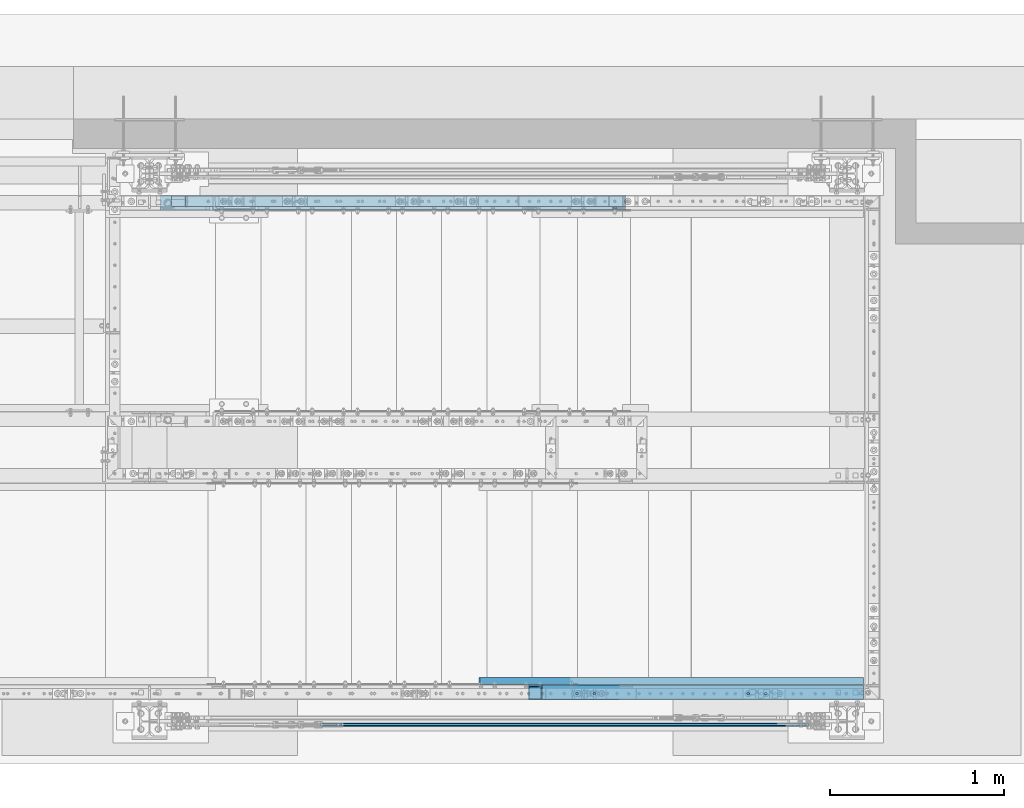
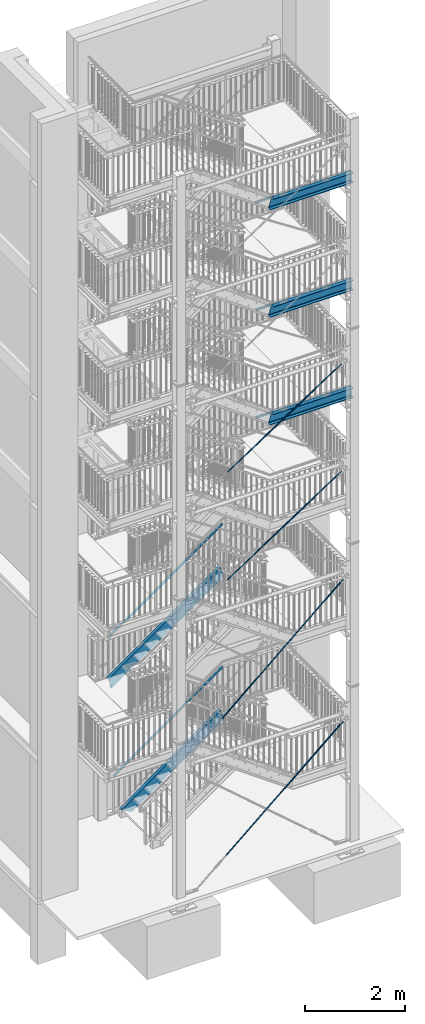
# One storey, part 126 of 825: 8 members, 6 beams, 63 openings.
"""IFC2X3 building model written with IfcOpenShell, lengths in millimetres."""

from ifc_helpers import new_model, entity, si_unit, converted_unit, frame, frame_2d, origin, origin_with_axes, origin_2d, origin_2d_with_axis, place, context, project, spatial, rectangle, circle, l_section, u_section, extrude, clip, halfspace, material, element, save


model = new_model("IFC2X3")

# Units and contexts
model_context = context("Model", 3, precision=1e-09, world=origin_with_axes())
ifc_project = project(units=[si_unit("LENGTHUNIT", "METRE", prefix="MILLI"), si_unit("AREAUNIT", "SQUARE_METRE"), si_unit("VOLUMEUNIT", "CUBIC_METRE"), converted_unit("PLANEANGLEUNIT", "DEGREE", entity("IfcPlaneAngleMeasure", 0.01745329), si_unit("PLANEANGLEUNIT", "RADIAN"), dimensions=[0, 0, 0, 0, 0, 0, 0])], contexts=[model_context])

# Site, building, storey
site_placement = place(None, origin_with_axes())
site = spatial("IfcSite", under=ifc_project, at=site_placement, Name="Cnopf'sche Kinderklinik", CompositionType="ELEMENT")
building_placement = place(site_placement, origin_with_axes())
building = spatial("IfcBuilding", under=site, at=building_placement, Name="Struktur 1", CompositionType="ELEMENT")
storey_placement = place(building_placement, origin_with_axes())
storey = spatial("IfcBuildingStorey", under=building, at=storey_placement, Name="Default Storey", CompositionType="ELEMENT", Elevation=0.0)

# Beam
ifc_material = material(Name="S235JR")
beam_1_placement = place(None, frame((8961.713402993, 4590.936971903, 11254.3000003), z_axis=(1.0, 0.0, 0.0), x_axis=(0.0, 0.0, -1.0)))
element("IfcBeam", 1, at=beam_1_placement, inside=storey, material=ifc_material, Name="BottomLanding#3", ObjectType="BottomLanding#3", context=model_context, shape_type="SweptSolid", body=[
    extrude(l_section(Depth=40.0, Width=40.0, Thickness=4.0, FilletRadius=6.0, EdgeRadius=3.0, at=frame_2d((8.8, 8.8))), origin(), (0.0, 0.0, -1.0), 2204.257526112),
])

# Beam, openings
beam_2_placement = place(None, frame((9219.017173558, 4554.436971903, 11145.5000003), z_axis=(-1.0, 0.0, 0.0), x_axis=(0.0, -1.0, 0.0)))
beam_2 = element("IfcBeam", 2, at=beam_2_placement, inside=storey, material=ifc_material, Name="BottomLanding#2", ObjectType="BottomLanding#2", context=model_context, shape_type="Clipping", body=[
    clip(clip(extrude(u_section(Depth=240.0, FlangeWidth=85.0, WebThickness=9.5, FlangeThickness=13.0, FilletRadius=13.0, EdgeRadius=6.5, FlangeSlope=4.574, at=frame_2d((20.2, 0.0))), origin(), (0.0, 0.0, 1.0), 2366.776191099), halfspace(frame((4554.436971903, -11145.5000003, 257.304770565), z_axis=(0.0, 0.0, 1.0), x_axis=(1.0, 0.0, 0.0)), True)), halfspace(frame((4554.436971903, -12161.289703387, 6075.770068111), z_axis=(0.0, -0.307506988, -0.951545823), x_axis=(-1.0, 0.0, 0.0)), True)),
])
opening_1_placement = place(beam_2_placement, frame((27.7, 120.5, 1897.224056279), z_axis=(0.0, 1.0, 0.0), x_axis=(-1.0, 0.0, 0.0)))
element("IfcOpeningElement", 3, at=opening_1_placement, cuts=beam_2, ObjectType="Opening", context=model_context, shape_type="SweptSolid", body=[
    extrude(circle(Radius=7.001, at=frame_2d((0.0, 7.001), x_axis=(1.0, 0.0))), origin(), (0.0, 0.0, -1.0), 14.0),
])
opening_2_placement = place(beam_2_placement, frame((27.7, 120.5, 1797.224056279), z_axis=(0.0, 1.0, 0.0), x_axis=(-1.0, 0.0, 0.0)))
element("IfcOpeningElement", 4, at=opening_2_placement, cuts=beam_2, ObjectType="Opening", context=model_context, shape_type="SweptSolid", body=[
    extrude(circle(Radius=7.001, at=frame_2d((0.0, 7.001), x_axis=(1.0, 0.0))), origin(), (0.0, 0.0, -1.0), 14.0),
])
opening_3_placement = place(beam_2_placement, frame((27.7, 120.5, 912.223913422), z_axis=(0.0, 1.0, 0.0), x_axis=(-1.0, 0.0, 0.0)))
element("IfcOpeningElement", 5, at=opening_3_placement, cuts=beam_2, ObjectType="Opening", context=model_context, shape_type="SweptSolid", body=[
    extrude(circle(Radius=7.001, at=frame_2d((0.0, 7.001), x_axis=(1.0, 0.0))), origin(), (0.0, 0.0, -1.0), 14.0),
])
opening_4_placement = place(beam_2_placement, frame((27.7, 120.5, 812.223913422), z_axis=(0.0, 1.0, 0.0), x_axis=(-1.0, 0.0, 0.0)))
element("IfcOpeningElement", 6, at=opening_4_placement, cuts=beam_2, ObjectType="Opening", context=model_context, shape_type="SweptSolid", body=[
    extrude(circle(Radius=7.001, at=frame_2d((0.0, 7.001), x_axis=(1.0, 0.0))), origin(), (0.0, 0.0, -1.0), 14.0),
])
opening_5_placement = place(beam_2_placement, frame((29.701, -120.5, 402.303770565), z_axis=(0.0, -1.0, 0.0), x_axis=(1.0, 0.0, 0.0)))
element("IfcOpeningElement", 7, at=opening_5_placement, cuts=beam_2, ObjectType="Opening", context=model_context, shape_type="SweptSolid", body=[
    extrude(circle(Radius=7.001, at=frame_2d((-7.001, 0.0), x_axis=(1.0, 0.0))), origin(), (0.0, 0.0, -1.0), 14.0),
])
opening_6_placement = place(beam_2_placement, frame((29.701, -120.5, 302.303770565), z_axis=(0.0, -1.0, 0.0), x_axis=(1.0, 0.0, 0.0)))
element("IfcOpeningElement", 8, at=opening_6_placement, cuts=beam_2, ObjectType="Opening", context=model_context, shape_type="SweptSolid", body=[
    extrude(circle(Radius=7.001, at=frame_2d((-7.001, 0.0), x_axis=(1.0, 0.0))), origin(), (0.0, 0.0, -1.0), 14.0),
])

beam_3_placement = place(None, frame((9219.017173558, 4554.436971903, 13776.5000001), z_axis=(-1.0, 0.0, 0.0), x_axis=(0.0, -1.0, 0.0)))
beam_3 = element("IfcBeam", 9, at=beam_3_placement, inside=storey, material=ifc_material, Name="BottomLanding#2", ObjectType="BottomLanding#2", context=model_context, shape_type="Clipping", body=[
    clip(clip(extrude(u_section(Depth=240.0, FlangeWidth=85.0, WebThickness=9.5, FlangeThickness=13.0, FilletRadius=13.0, EdgeRadius=6.5, FlangeSlope=4.574, at=frame_2d((20.2, 0.0))), origin(), (0.0, 0.0, 1.0), 2367.00516843), halfspace(frame((4554.436971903, -13776.5000001, 257.304770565), z_axis=(0.0, 0.0, 1.0), x_axis=(1.0, 0.0, 0.0)), True)), halfspace(frame((4554.436971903, -14541.73622123, 6856.907864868), z_axis=(0.0, -0.308193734, -0.951323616), x_axis=(-1.0, 0.0, 0.0)), True)),
])
opening_7_placement = place(beam_3_placement, frame((27.7, 120.5, 1897.224056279), z_axis=(0.0, 1.0, 0.0), x_axis=(-1.0, 0.0, 0.0)))
element("IfcOpeningElement", 10, at=opening_7_placement, cuts=beam_3, ObjectType="Opening", context=model_context, shape_type="SweptSolid", body=[
    extrude(circle(Radius=7.001, at=frame_2d((0.0, 7.001), x_axis=(1.0, 0.0))), origin(), (0.0, 0.0, -1.0), 14.0),
])
opening_8_placement = place(beam_3_placement, frame((27.7, 120.5, 1797.224056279), z_axis=(0.0, 1.0, 0.0), x_axis=(-1.0, 0.0, 0.0)))
element("IfcOpeningElement", 11, at=opening_8_placement, cuts=beam_3, ObjectType="Opening", context=model_context, shape_type="SweptSolid", body=[
    extrude(circle(Radius=7.001, at=frame_2d((0.0, 7.001), x_axis=(1.0, 0.0))), origin(), (0.0, 0.0, -1.0), 14.0),
])
opening_9_placement = place(beam_3_placement, frame((27.7, 120.5, 912.223913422), z_axis=(0.0, 1.0, 0.0), x_axis=(-1.0, 0.0, 0.0)))
element("IfcOpeningElement", 12, at=opening_9_placement, cuts=beam_3, ObjectType="Opening", context=model_context, shape_type="SweptSolid", body=[
    extrude(circle(Radius=7.001, at=frame_2d((0.0, 7.001), x_axis=(1.0, 0.0))), origin(), (0.0, 0.0, -1.0), 14.0),
])
opening_10_placement = place(beam_3_placement, frame((27.7, 120.5, 812.223913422), z_axis=(0.0, 1.0, 0.0), x_axis=(-1.0, 0.0, 0.0)))
element("IfcOpeningElement", 13, at=opening_10_placement, cuts=beam_3, ObjectType="Opening", context=model_context, shape_type="SweptSolid", body=[
    extrude(circle(Radius=7.001, at=frame_2d((0.0, 7.001), x_axis=(1.0, 0.0))), origin(), (0.0, 0.0, -1.0), 14.0),
])
opening_11_placement = place(beam_3_placement, frame((29.701, -120.5, 402.303770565), z_axis=(0.0, -1.0, 0.0), x_axis=(1.0, 0.0, 0.0)))
element("IfcOpeningElement", 14, at=opening_11_placement, cuts=beam_3, ObjectType="Opening", context=model_context, shape_type="SweptSolid", body=[
    extrude(circle(Radius=7.001, at=frame_2d((-7.001, 0.0), x_axis=(1.0, 0.0))), origin(), (0.0, 0.0, -1.0), 14.0),
])
opening_12_placement = place(beam_3_placement, frame((29.701, -120.5, 302.303770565), z_axis=(0.0, -1.0, 0.0), x_axis=(1.0, 0.0, 0.0)))
element("IfcOpeningElement", 15, at=opening_12_placement, cuts=beam_3, ObjectType="Opening", context=model_context, shape_type="SweptSolid", body=[
    extrude(circle(Radius=7.001, at=frame_2d((-7.001, 0.0), x_axis=(1.0, 0.0))), origin(), (0.0, 0.0, -1.0), 14.0),
])

# Beam
beam_4_placement = place(None, frame((8961.713402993, 4590.936971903, 13885.3000001), z_axis=(1.0, 0.0, 0.0), x_axis=(0.0, 0.0, -1.0)))
element("IfcBeam", 16, at=beam_4_placement, inside=storey, material=ifc_material, Name="BottomLanding#3", ObjectType="BottomLanding#3", context=model_context, shape_type="SweptSolid", body=[
    extrude(l_section(Depth=40.0, Width=40.0, Thickness=4.0, FilletRadius=6.0, EdgeRadius=3.0, at=frame_2d((8.8, 8.8))), origin(), (0.0, 0.0, -1.0), 2203.77580859),
])

# Beam, openings
beam_5_placement = place(None, frame((9219.017173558, 4554.436971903, 16404.0000003), z_axis=(-1.0, 0.0, 0.0), x_axis=(0.0, -1.0, 0.0)))
beam_5 = element("IfcBeam", 17, at=beam_5_placement, inside=storey, material=ifc_material, Name="BottomLanding#2", ObjectType="BottomLanding#2", context=model_context, shape_type="Clipping", body=[
    clip(clip(extrude(u_section(Depth=240.0, FlangeWidth=85.0, WebThickness=9.5, FlangeThickness=13.0, FilletRadius=13.0, EdgeRadius=6.5, FlangeSlope=4.574, at=frame_2d((20.2, 0.0))), origin(), (0.0, 0.0, 1.0), 2366.575023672), halfspace(frame((4554.436971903, -16404.0000003, 257.304770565), z_axis=(0.0, 0.0, 1.0), x_axis=(1.0, 0.0, 0.0)), True)), halfspace(frame((4554.436971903, -16925.049146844, 7603.195357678), z_axis=(0.0, -0.306904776, -0.951740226), x_axis=(-1.0, 0.0, 0.0)), True)),
])
opening_13_placement = place(beam_5_placement, frame((27.7, 120.5, 1897.224056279), z_axis=(0.0, 1.0, 0.0), x_axis=(-1.0, 0.0, 0.0)))
element("IfcOpeningElement", 18, at=opening_13_placement, cuts=beam_5, ObjectType="Opening", context=model_context, shape_type="SweptSolid", body=[
    extrude(circle(Radius=7.001, at=frame_2d((0.0, 7.001), x_axis=(1.0, 0.0))), origin(), (0.0, 0.0, -1.0), 14.0),
])
opening_14_placement = place(beam_5_placement, frame((27.7, 120.5, 1797.224056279), z_axis=(0.0, 1.0, 0.0), x_axis=(-1.0, 0.0, 0.0)))
element("IfcOpeningElement", 19, at=opening_14_placement, cuts=beam_5, ObjectType="Opening", context=model_context, shape_type="SweptSolid", body=[
    extrude(circle(Radius=7.001, at=frame_2d((0.0, 7.001), x_axis=(1.0, 0.0))), origin(), (0.0, 0.0, -1.0), 14.0),
])
opening_15_placement = place(beam_5_placement, frame((27.7, 120.5, 912.223913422), z_axis=(0.0, 1.0, 0.0), x_axis=(-1.0, 0.0, 0.0)))
element("IfcOpeningElement", 20, at=opening_15_placement, cuts=beam_5, ObjectType="Opening", context=model_context, shape_type="SweptSolid", body=[
    extrude(circle(Radius=7.001, at=frame_2d((0.0, 7.001), x_axis=(1.0, 0.0))), origin(), (0.0, 0.0, -1.0), 14.0),
])
opening_16_placement = place(beam_5_placement, frame((27.7, 120.5, 812.223913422), z_axis=(0.0, 1.0, 0.0), x_axis=(-1.0, 0.0, 0.0)))
element("IfcOpeningElement", 21, at=opening_16_placement, cuts=beam_5, ObjectType="Opening", context=model_context, shape_type="SweptSolid", body=[
    extrude(circle(Radius=7.001, at=frame_2d((0.0, 7.001), x_axis=(1.0, 0.0))), origin(), (0.0, 0.0, -1.0), 14.0),
])
opening_17_placement = place(beam_5_placement, frame((29.701, -120.5, 402.303770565), z_axis=(0.0, -1.0, 0.0), x_axis=(1.0, 0.0, 0.0)))
element("IfcOpeningElement", 22, at=opening_17_placement, cuts=beam_5, ObjectType="Opening", context=model_context, shape_type="SweptSolid", body=[
    extrude(circle(Radius=7.001, at=frame_2d((-7.001, 0.0), x_axis=(1.0, 0.0))), origin(), (0.0, 0.0, -1.0), 14.0),
])
opening_18_placement = place(beam_5_placement, frame((29.701, -120.5, 302.303770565), z_axis=(0.0, -1.0, 0.0), x_axis=(1.0, 0.0, 0.0)))
element("IfcOpeningElement", 23, at=opening_18_placement, cuts=beam_5, ObjectType="Opening", context=model_context, shape_type="SweptSolid", body=[
    extrude(circle(Radius=7.001, at=frame_2d((-7.001, 0.0), x_axis=(1.0, 0.0))), origin(), (0.0, 0.0, -1.0), 14.0),
])

# Beam
beam_6_placement = place(None, frame((8961.713402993, 4590.936971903, 16512.8000003), z_axis=(1.0, 0.0, 0.0), x_axis=(0.0, 0.0, -1.0)))
element("IfcBeam", 24, at=beam_6_placement, inside=storey, material=ifc_material, Name="BottomLanding#3", ObjectType="BottomLanding#3", context=model_context, shape_type="SweptSolid", body=[
    extrude(l_section(Depth=40.0, Width=40.0, Thickness=4.0, FilletRadius=6.0, EdgeRadius=3.0, at=frame_2d((8.8, 8.8))), origin(), (0.0, 0.0, -1.0), 2210.0),
])

# Members
member_1_placement = place(None, frame((8638.256627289, 4346.736971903, 3315.333465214), z_axis=(0.757867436, 0.0, 0.652408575), x_axis=(-0.652408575, 0.0, 0.757867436)))
element("IfcMember", 25, at=member_1_placement, inside=storey, material=ifc_material, Name="-", ObjectType="-", context=model_context, shape_type="SweptSolid", body=[
    extrude(circle(Radius=11.0, at=origin_2d()), origin(), (0.0, 0.0, -1.0), 3558.714022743),
])
member_2_placement = place(None, frame((8601.498957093, 4346.736971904, 9442.924079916), z_axis=(0.836006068, 0.0, 0.548720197), x_axis=(-0.548720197, 0.0, 0.836006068)))
element("IfcMember", 26, at=member_2_placement, inside=storey, material=ifc_material, Name="-", ObjectType="-", context=model_context, shape_type="SweptSolid", body=[
    extrude(circle(Radius=11.0, at=origin_2d()), origin(), (0.0, 0.0, -1.0), 3152.493860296),
])
member_3_placement = place(None, frame((8640.181685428, 4346.736971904, 6788.804321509), z_axis=(0.755906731, 0.0, 0.654679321), x_axis=(-0.654679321, 0.0, 0.755906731)))
element("IfcMember", 27, at=member_3_placement, inside=storey, material=ifc_material, Name="-", ObjectType="-", context=model_context, shape_type="SweptSolid", body=[
    extrude(circle(Radius=11.0, at=origin_2d()), origin(), (0.0, 0.0, -1.0), 3695.891465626),
])
member_4_placement = place(None, frame((8601.347465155, 4346.736971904, 12070.155526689), z_axis=(0.836484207, 0.0, 0.547991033), x_axis=(-0.547991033, 0.0, 0.836484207)))
element("IfcMember", 28, at=member_4_placement, inside=storey, material=ifc_material, Name="-", ObjectType="-", context=model_context, shape_type="SweptSolid", body=[
    extrude(circle(Radius=11.0, at=origin_2d()), origin(), (0.0, 0.0, -1.0), 3149.752466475),
])

# Member, openings
member_5_placement = place(None, frame((4776.641171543, 7329.036971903, 3599.654006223), z_axis=(0.818063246, 0.0, 0.575128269), x_axis=(0.0, 1.0, 0.0)))
member_5 = element("IfcMember", 29, at=member_5_placement, inside=storey, material=ifc_material, Name="Stringer#1", ObjectType="Stringer#1", context=model_context, shape_type="Clipping", body=[
    clip(clip(extrude(u_section(Depth=240.0, FlangeWidth=85.0, WebThickness=9.5, FlangeThickness=13.0, FilletRadius=13.0, EdgeRadius=6.5, FlangeSlope=4.574, at=frame_2d((20.2, 0.0))), origin(), (0.0, 0.0, 1.0), 3697.004056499), halfspace(frame((-7329.036971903, -2876.228700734, 2489.789648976), z_axis=(0.0, 0.301609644, -0.953431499), x_axis=(-1.0, 0.0, 0.0)), True)), halfspace(frame((-7329.036971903, -1962.281935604, -399.327631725), z_axis=(0.0, -0.301609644, 0.953431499), x_axis=(1.0, 0.0, 0.0)), True)),
])
opening_19_placement = place(member_5_placement, frame((-22.8, 54.877031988, 2232.875726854), z_axis=(1.0, 0.0, 0.0), x_axis=(0.0, -0.575128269, 0.818063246)))
element("IfcOpeningElement", 30, at=opening_19_placement, cuts=member_5, ObjectType="Opening", context=model_context, shape_type="SweptSolid", body=[
    extrude(circle(Radius=7.001, at=origin_2d_with_axis()), origin(), (0.0, 0.0, 1.0), 10.5),
])
opening_20_placement = place(member_5_placement, frame((-22.8, -48.646056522, 2380.127111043), z_axis=(1.0, 0.0, 0.0), x_axis=(0.0, -0.575128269, 0.818063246)))
element("IfcOpeningElement", 31, at=opening_20_placement, cuts=member_5, ObjectType="Opening", context=model_context, shape_type="SweptSolid", body=[
    extrude(circle(Radius=7.001, at=origin_2d_with_axis()), origin(), (0.0, 0.0, 1.0), 10.5),
])
opening_21_placement = place(member_5_placement, frame((-22.8, 54.877031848, 643.756539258), z_axis=(1.0, 0.0, 0.0), x_axis=(0.0, -0.575128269, 0.818063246)))
element("IfcOpeningElement", 32, at=opening_21_placement, cuts=member_5, ObjectType="Opening", context=model_context, shape_type="SweptSolid", body=[
    extrude(circle(Radius=7.001, at=origin_2d_with_axis()), origin(), (0.0, 0.0, 1.0), 10.5),
])
opening_22_placement = place(member_5_placement, frame((-22.8, 54.87703196, 1915.051889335), z_axis=(1.0, 0.0, 0.0), x_axis=(0.0, -0.575128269, 0.818063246)))
element("IfcOpeningElement", 33, at=opening_22_placement, cuts=member_5, ObjectType="Opening", context=model_context, shape_type="SweptSolid", body=[
    extrude(circle(Radius=7.001, at=origin_2d_with_axis()), origin(), (0.0, 0.0, 1.0), 10.5),
])
opening_23_placement = place(member_5_placement, frame((-22.8, 54.877031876, 961.580376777), z_axis=(1.0, 0.0, 0.0), x_axis=(0.0, -0.575128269, 0.818063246)))
element("IfcOpeningElement", 34, at=opening_23_placement, cuts=member_5, ObjectType="Opening", context=model_context, shape_type="SweptSolid", body=[
    extrude(circle(Radius=7.001, at=origin_2d_with_axis()), origin(), (0.0, 0.0, 1.0), 10.5),
])
opening_24_placement = place(member_5_placement, frame((-22.8, -48.646056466, 3015.774786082), z_axis=(1.0, 0.0, 0.0), x_axis=(0.0, -0.575128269, 0.818063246)))
element("IfcOpeningElement", 35, at=opening_24_placement, cuts=member_5, ObjectType="Opening", context=model_context, shape_type="SweptSolid", body=[
    extrude(circle(Radius=7.001, at=origin_2d_with_axis()), origin(), (0.0, 0.0, 1.0), 10.5),
])
opening_25_placement = place(member_5_placement, frame((-22.8, -48.64605655, 2062.303273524), z_axis=(1.0, 0.0, 0.0), x_axis=(0.0, -0.575128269, 0.818063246)))
element("IfcOpeningElement", 36, at=opening_25_placement, cuts=member_5, ObjectType="Opening", context=model_context, shape_type="SweptSolid", body=[
    extrude(circle(Radius=7.001, at=origin_2d_with_axis()), origin(), (0.0, 0.0, 1.0), 10.5),
])
opening_26_placement = place(member_5_placement, frame((-22.8, 54.877032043, 2868.523401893), z_axis=(1.0, 0.0, 0.0), x_axis=(0.0, -0.575128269, 0.818063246)))
element("IfcOpeningElement", 37, at=opening_26_placement, cuts=member_5, ObjectType="Opening", context=model_context, shape_type="SweptSolid", body=[
    extrude(circle(Radius=7.001, at=origin_2d_with_axis()), origin(), (0.0, 0.0, 1.0), 10.5),
])
opening_27_placement = place(member_5_placement, frame((-22.8, -48.646056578, 1744.479436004), z_axis=(1.0, 0.0, 0.0), x_axis=(0.0, -0.575128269, 0.818063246)))
element("IfcOpeningElement", 38, at=opening_27_placement, cuts=member_5, ObjectType="Opening", context=model_context, shape_type="SweptSolid", body=[
    extrude(circle(Radius=7.001, at=origin_2d_with_axis()), origin(), (0.0, 0.0, 1.0), 10.5),
])
opening_28_placement = place(member_5_placement, frame((-22.8, -48.646056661, 791.007923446), z_axis=(1.0, 0.0, 0.0), x_axis=(0.0, -0.575128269, 0.818063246)))
element("IfcOpeningElement", 39, at=opening_28_placement, cuts=member_5, ObjectType="Opening", context=model_context, shape_type="SweptSolid", body=[
    extrude(circle(Radius=7.001, at=origin_2d_with_axis()), origin(), (0.0, 0.0, 1.0), 10.5),
])
opening_29_placement = place(member_5_placement, frame((-22.8, -48.646056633, 1108.831760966), z_axis=(1.0, 0.0, 0.0), x_axis=(0.0, -0.575128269, 0.818063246)))
element("IfcOpeningElement", 40, at=opening_29_placement, cuts=member_5, ObjectType="Opening", context=model_context, shape_type="SweptSolid", body=[
    extrude(circle(Radius=7.001, at=origin_2d_with_axis()), origin(), (0.0, 0.0, 1.0), 10.5),
])
opening_30_placement = place(member_5_placement, frame((-22.8, 54.877031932, 1597.228051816), z_axis=(1.0, 0.0, 0.0), x_axis=(0.0, -0.575128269, 0.818063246)))
element("IfcOpeningElement", 41, at=opening_30_placement, cuts=member_5, ObjectType="Opening", context=model_context, shape_type="SweptSolid", body=[
    extrude(circle(Radius=7.001, at=origin_2d_with_axis()), origin(), (0.0, 0.0, 1.0), 10.5),
])
opening_31_placement = place(member_5_placement, frame((-22.8, -48.646056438, 3333.598623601), z_axis=(1.0, 0.0, 0.0), x_axis=(0.0, -0.575128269, 0.818063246)))
element("IfcOpeningElement", 42, at=opening_31_placement, cuts=member_5, ObjectType="Opening", context=model_context, shape_type="SweptSolid", body=[
    extrude(circle(Radius=7.001, at=origin_2d_with_axis()), origin(), (0.0, 0.0, 1.0), 10.5),
])
opening_32_placement = place(member_5_placement, frame((-22.8, -48.646056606, 1426.655598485), z_axis=(1.0, 0.0, 0.0), x_axis=(0.0, -0.575128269, 0.818063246)))
element("IfcOpeningElement", 43, at=opening_32_placement, cuts=member_5, ObjectType="Opening", context=model_context, shape_type="SweptSolid", body=[
    extrude(circle(Radius=7.001, at=origin_2d_with_axis()), origin(), (0.0, 0.0, 1.0), 10.5),
])
opening_33_placement = place(member_5_placement, frame((-22.8, 54.877032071, 3186.347239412), z_axis=(1.0, 0.0, 0.0), x_axis=(0.0, -0.575128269, 0.818063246)))
element("IfcOpeningElement", 44, at=opening_33_placement, cuts=member_5, ObjectType="Opening", context=model_context, shape_type="SweptSolid", body=[
    extrude(circle(Radius=7.001, at=origin_2d_with_axis()), origin(), (0.0, 0.0, 1.0), 10.5),
])
opening_34_placement = place(member_5_placement, frame((-22.8, -48.646056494, 2697.950948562), z_axis=(1.0, 0.0, 0.0), x_axis=(0.0, -0.575128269, 0.818063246)))
element("IfcOpeningElement", 45, at=opening_34_placement, cuts=member_5, ObjectType="Opening", context=model_context, shape_type="SweptSolid", body=[
    extrude(circle(Radius=7.001, at=origin_2d_with_axis()), origin(), (0.0, 0.0, 1.0), 10.5),
])
opening_35_placement = place(member_5_placement, frame((-22.8, 54.877032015, 2550.699564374), z_axis=(1.0, 0.0, 0.0), x_axis=(0.0, -0.575128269, 0.818063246)))
element("IfcOpeningElement", 46, at=opening_35_placement, cuts=member_5, ObjectType="Opening", context=model_context, shape_type="SweptSolid", body=[
    extrude(circle(Radius=7.001, at=origin_2d_with_axis()), origin(), (0.0, 0.0, 1.0), 10.5),
])
opening_36_placement = place(member_5_placement, frame((-22.8, 54.877031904, 1279.404214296), z_axis=(1.0, 0.0, 0.0), x_axis=(0.0, -0.575128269, 0.818063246)))
element("IfcOpeningElement", 47, at=opening_36_placement, cuts=member_5, ObjectType="Opening", context=model_context, shape_type="SweptSolid", body=[
    extrude(circle(Radius=7.001, at=origin_2d_with_axis()), origin(), (0.0, 0.0, 1.0), 10.5),
])
opening_37_placement = place(member_5_placement, frame((27.7, 120.5, 1253.981677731), z_axis=(0.0, 1.0, 0.0), x_axis=(-1.0, 0.0, 0.0)))
element("IfcOpeningElement", 48, at=opening_37_placement, cuts=member_5, ObjectType="Opening", context=model_context, shape_type="SweptSolid", body=[
    extrude(circle(Radius=7.001, at=frame_2d((0.0, 7.001), x_axis=(1.0, 0.0))), origin(), (0.0, 0.0, -1.0), 14.0),
])
opening_38_placement = place(member_5_placement, frame((27.7, 120.5, 1153.981677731), z_axis=(0.0, 1.0, 0.0), x_axis=(-1.0, 0.0, 0.0)))
element("IfcOpeningElement", 49, at=opening_38_placement, cuts=member_5, ObjectType="Opening", context=model_context, shape_type="SweptSolid", body=[
    extrude(circle(Radius=7.001, at=frame_2d((0.0, 7.001), x_axis=(1.0, 0.0))), origin(), (0.0, 0.0, -1.0), 14.0),
])
opening_39_placement = place(member_5_placement, frame((27.7, 120.500000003, 2458.045236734), z_axis=(0.0, 1.0, 0.0), x_axis=(-1.0, 0.0, 0.0)))
element("IfcOpeningElement", 50, at=opening_39_placement, cuts=member_5, ObjectType="Opening", context=model_context, shape_type="SweptSolid", body=[
    extrude(circle(Radius=7.001, at=frame_2d((0.0, 7.001), x_axis=(1.0, 0.0))), origin(), (0.0, 0.0, -1.0), 14.000000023),
])
opening_40_placement = place(member_5_placement, frame((27.7, 120.500000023, 2358.045236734), z_axis=(0.0, 1.0, 0.0), x_axis=(-1.0, 0.0, 0.0)))
element("IfcOpeningElement", 51, at=opening_40_placement, cuts=member_5, ObjectType="Opening", context=model_context, shape_type="SweptSolid", body=[
    extrude(circle(Radius=7.001, at=frame_2d((0.0, 7.001), x_axis=(1.0, 0.0))), origin(), (0.0, 0.0, -1.0), 14.000000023),
])

member_6_placement = place(None, frame((5064.64560131, 7329.036971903, 285.297508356), z_axis=(0.814635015, 0.0, 0.579973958), x_axis=(0.0, 1.0, 0.0)))
member_6 = element("IfcMember", 52, at=member_6_placement, inside=storey, material=ifc_material, Name="Stringer#1", ObjectType="Stringer#1", context=model_context, shape_type="Clipping", body=[
    clip(clip(extrude(u_section(Depth=240.0, FlangeWidth=85.0, WebThickness=9.5, FlangeThickness=13.0, FilletRadius=13.0, EdgeRadius=6.5, FlangeSlope=4.574, at=frame_2d((20.2, 0.0))), origin(), (0.0, 0.0, 1.0), 3359.765077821), halfspace(frame((-7329.036971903, 321.948595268, 3164.680907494), z_axis=(0.0, 0.304437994, -0.952532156), x_axis=(-1.0, 0.0, 0.0)), True)), halfspace(frame((-7329.036971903, 4023.331766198, -1734.317054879), z_axis=(0.0, 0.458271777, 0.888812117), x_axis=(1.0, 0.0, 0.0)), True)),
])
opening_41_placement = place(member_6_placement, frame((-22.8, 54.89598563, 2527.396937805), z_axis=(1.0, 0.0, 0.0), x_axis=(0.0, -0.579973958, 0.814635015)))
element("IfcOpeningElement", 53, at=opening_41_placement, cuts=member_6, ObjectType="Opening", context=model_context, shape_type="SweptSolid", body=[
    extrude(circle(Radius=7.001, at=origin_2d_with_axis()), origin(), (0.0, 0.0, 1.0), 10.5),
])
opening_42_placement = place(member_6_placement, frame((-22.8, -49.49932673, 1397.385896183), z_axis=(1.0, 0.0, 0.0), x_axis=(0.0, -0.579973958, 0.814635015)))
element("IfcOpeningElement", 54, at=opening_42_placement, cuts=member_6, ObjectType="Opening", context=model_context, shape_type="SweptSolid", body=[
    extrude(circle(Radius=7.001, at=origin_2d_with_axis()), origin(), (0.0, 0.0, 1.0), 10.5),
])
opening_43_placement = place(member_6_placement, frame((-22.8, -49.49932673, 1716.547232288), z_axis=(1.0, 0.0, 0.0), x_axis=(0.0, -0.579973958, 0.814635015)))
element("IfcOpeningElement", 55, at=opening_43_placement, cuts=member_6, ObjectType="Opening", context=model_context, shape_type="SweptSolid", body=[
    extrude(circle(Radius=7.001, at=origin_2d_with_axis()), origin(), (0.0, 0.0, 1.0), 10.5),
])
opening_44_placement = place(member_6_placement, frame((-22.8, 54.89598563, 1889.074265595), z_axis=(1.0, 0.0, 0.0), x_axis=(0.0, -0.579973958, 0.814635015)))
element("IfcOpeningElement", 56, at=opening_44_placement, cuts=member_6, ObjectType="Opening", context=model_context, shape_type="SweptSolid", body=[
    extrude(circle(Radius=7.001, at=origin_2d_with_axis()), origin(), (0.0, 0.0, 1.0), 10.5),
])
opening_45_placement = place(member_6_placement, frame((-22.8, -49.49932673, 759.063223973), z_axis=(1.0, 0.0, 0.0), x_axis=(0.0, -0.579973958, 0.814635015)))
element("IfcOpeningElement", 57, at=opening_45_placement, cuts=member_6, ObjectType="Opening", context=model_context, shape_type="SweptSolid", body=[
    extrude(circle(Radius=7.001, at=origin_2d_with_axis()), origin(), (0.0, 0.0, 1.0), 10.5),
])
opening_46_placement = place(member_6_placement, frame((-22.8, -49.49932673, 2354.869904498), z_axis=(1.0, 0.0, 0.0), x_axis=(0.0, -0.579973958, 0.814635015)))
element("IfcOpeningElement", 58, at=opening_46_placement, cuts=member_6, ObjectType="Opening", context=model_context, shape_type="SweptSolid", body=[
    extrude(circle(Radius=7.001, at=origin_2d_with_axis()), origin(), (0.0, 0.0, 1.0), 10.5),
])
opening_47_placement = place(member_6_placement, frame((-22.8, 54.89598563, 931.59025728), z_axis=(1.0, 0.0, 0.0), x_axis=(0.0, -0.579973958, 0.814635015)))
element("IfcOpeningElement", 59, at=opening_47_placement, cuts=member_6, ObjectType="Opening", context=model_context, shape_type="SweptSolid", body=[
    extrude(circle(Radius=7.001, at=origin_2d_with_axis()), origin(), (0.0, 0.0, 1.0), 10.5),
])
opening_48_placement = place(member_6_placement, frame((-22.8, 54.89598563, 1250.751593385), z_axis=(1.0, 0.0, 0.0), x_axis=(0.0, -0.579973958, 0.814635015)))
element("IfcOpeningElement", 60, at=opening_48_placement, cuts=member_6, ObjectType="Opening", context=model_context, shape_type="SweptSolid", body=[
    extrude(circle(Radius=7.001, at=origin_2d_with_axis()), origin(), (0.0, 0.0, 1.0), 10.5),
])
opening_49_placement = place(member_6_placement, frame((-22.8, -49.49932673, 1078.224560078), z_axis=(1.0, 0.0, 0.0), x_axis=(0.0, -0.579973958, 0.814635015)))
element("IfcOpeningElement", 61, at=opening_49_placement, cuts=member_6, ObjectType="Opening", context=model_context, shape_type="SweptSolid", body=[
    extrude(circle(Radius=7.001, at=origin_2d_with_axis()), origin(), (0.0, 0.0, 1.0), 10.5),
])
opening_50_placement = place(member_6_placement, frame((-22.8, -49.49932673, 2035.708568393), z_axis=(1.0, 0.0, 0.0), x_axis=(0.0, -0.579973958, 0.814635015)))
element("IfcOpeningElement", 62, at=opening_50_placement, cuts=member_6, ObjectType="Opening", context=model_context, shape_type="SweptSolid", body=[
    extrude(circle(Radius=7.001, at=origin_2d_with_axis()), origin(), (0.0, 0.0, 1.0), 10.5),
])
opening_51_placement = place(member_6_placement, frame((-22.8, -49.49932673, 2993.192576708), z_axis=(1.0, 0.0, 0.0), x_axis=(0.0, -0.579973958, 0.814635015)))
element("IfcOpeningElement", 63, at=opening_51_placement, cuts=member_6, ObjectType="Opening", context=model_context, shape_type="SweptSolid", body=[
    extrude(circle(Radius=7.001, at=origin_2d_with_axis()), origin(), (0.0, 0.0, 1.0), 10.5),
])
opening_52_placement = place(member_6_placement, frame((-22.8, 54.89598563, 1569.91292949), z_axis=(1.0, 0.0, 0.0), x_axis=(0.0, -0.579973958, 0.814635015)))
element("IfcOpeningElement", 64, at=opening_52_placement, cuts=member_6, ObjectType="Opening", context=model_context, shape_type="SweptSolid", body=[
    extrude(circle(Radius=7.001, at=origin_2d_with_axis()), origin(), (0.0, 0.0, 1.0), 10.5),
])
opening_53_placement = place(member_6_placement, frame((-22.8, -49.49932673, 2674.031240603), z_axis=(1.0, 0.0, 0.0), x_axis=(0.0, -0.579973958, 0.814635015)))
element("IfcOpeningElement", 65, at=opening_53_placement, cuts=member_6, ObjectType="Opening", context=model_context, shape_type="SweptSolid", body=[
    extrude(circle(Radius=7.001, at=origin_2d_with_axis()), origin(), (0.0, 0.0, 1.0), 10.5),
])
opening_54_placement = place(member_6_placement, frame((-22.8, 54.89598563, 612.428921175), z_axis=(1.0, 0.0, 0.0), x_axis=(0.0, -0.579973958, 0.814635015)))
element("IfcOpeningElement", 66, at=opening_54_placement, cuts=member_6, ObjectType="Opening", context=model_context, shape_type="SweptSolid", body=[
    extrude(circle(Radius=7.001, at=origin_2d_with_axis()), origin(), (0.0, 0.0, 1.0), 10.5),
])
opening_55_placement = place(member_6_placement, frame((-22.8, 54.89598563, 2208.2356017), z_axis=(1.0, 0.0, 0.0), x_axis=(0.0, -0.579973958, 0.814635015)))
element("IfcOpeningElement", 67, at=opening_55_placement, cuts=member_6, ObjectType="Opening", context=model_context, shape_type="SweptSolid", body=[
    extrude(circle(Radius=7.001, at=origin_2d_with_axis()), origin(), (0.0, 0.0, 1.0), 10.5),
])
opening_56_placement = place(member_6_placement, frame((-22.8, -49.49932673, 439.901887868), z_axis=(1.0, 0.0, 0.0), x_axis=(0.0, -0.579973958, 0.814635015)))
element("IfcOpeningElement", 68, at=opening_56_placement, cuts=member_6, ObjectType="Opening", context=model_context, shape_type="SweptSolid", body=[
    extrude(circle(Radius=7.001, at=origin_2d_with_axis()), origin(), (0.0, 0.0, 1.0), 10.5),
])
opening_57_placement = place(member_6_placement, frame((-22.8, 54.89598563, 2846.55827391), z_axis=(1.0, 0.0, 0.0), x_axis=(0.0, -0.579973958, 0.814635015)))
element("IfcOpeningElement", 69, at=opening_57_placement, cuts=member_6, ObjectType="Opening", context=model_context, shape_type="SweptSolid", body=[
    extrude(circle(Radius=7.001, at=origin_2d_with_axis()), origin(), (0.0, 0.0, 1.0), 10.5),
])
opening_58_placement = place(member_6_placement, frame((27.7, 120.5, 458.115016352), z_axis=(0.0, 1.0, 0.0), x_axis=(-1.0, 0.0, 0.0)))
element("IfcOpeningElement", 70, at=opening_58_placement, cuts=member_6, ObjectType="Opening", context=model_context, shape_type="SweptSolid", body=[
    extrude(circle(Radius=7.001, at=frame_2d((0.0, 7.001), x_axis=(1.0, 0.0))), origin(), (0.0, 0.0, -1.0), 14.0),
])
opening_59_placement = place(member_6_placement, frame((27.7, 120.5, 358.115016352), z_axis=(0.0, 1.0, 0.0), x_axis=(-1.0, 0.0, 0.0)))
element("IfcOpeningElement", 71, at=opening_59_placement, cuts=member_6, ObjectType="Opening", context=model_context, shape_type="SweptSolid", body=[
    extrude(circle(Radius=7.001, at=frame_2d((0.0, 7.001), x_axis=(1.0, 0.0))), origin(), (0.0, 0.0, -1.0), 14.0),
])
opening_60_placement = place(member_6_placement, frame((27.7, 120.5, 1701.711348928), z_axis=(0.0, 1.0, 0.0), x_axis=(-1.0, 0.0, 0.0)))
element("IfcOpeningElement", 72, at=opening_60_placement, cuts=member_6, ObjectType="Opening", context=model_context, shape_type="SweptSolid", body=[
    extrude(circle(Radius=7.001, at=frame_2d((0.0, 7.001), x_axis=(1.0, 0.0))), origin(), (0.0, 0.0, -1.0), 14.0),
])
opening_61_placement = place(member_6_placement, frame((27.7, 120.5, 1601.711348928), z_axis=(0.0, 1.0, 0.0), x_axis=(-1.0, 0.0, 0.0)))
element("IfcOpeningElement", 73, at=opening_61_placement, cuts=member_6, ObjectType="Opening", context=model_context, shape_type="SweptSolid", body=[
    extrude(circle(Radius=7.001, at=frame_2d((0.0, 7.001), x_axis=(1.0, 0.0))), origin(), (0.0, 0.0, -1.0), 14.0),
])
opening_62_placement = place(member_6_placement, frame((27.7, 120.5, 2945.307681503), z_axis=(0.0, 1.0, 0.0), x_axis=(-1.0, 0.0, 0.0)))
element("IfcOpeningElement", 74, at=opening_62_placement, cuts=member_6, ObjectType="Opening", context=model_context, shape_type="SweptSolid", body=[
    extrude(circle(Radius=7.001, at=frame_2d((0.0, 7.001), x_axis=(1.0, 0.0))), origin(), (0.0, 0.0, -1.0), 14.0),
])
opening_63_placement = place(member_6_placement, frame((27.7, 120.5, 2845.307681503), z_axis=(0.0, 1.0, 0.0), x_axis=(-1.0, 0.0, 0.0)))
element("IfcOpeningElement", 75, at=opening_63_placement, cuts=member_6, ObjectType="Opening", context=model_context, shape_type="SweptSolid", body=[
    extrude(circle(Radius=7.001, at=frame_2d((0.0, 7.001), x_axis=(1.0, 0.0))), origin(), (0.0, 0.0, -1.0), 14.0),
])

# Members
member_7_placement = place(None, frame((4986.295477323, 7356.736971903, 4861.709683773), z_axis=(-0.818063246, 0.0, -0.575128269), x_axis=(0.575128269, 0.0, -0.818063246)))
element("IfcMember", 76, at=member_7_placement, inside=storey, material=ifc_material, Name="Railing_Kneerail_Stair#1002", ObjectType="Railing_Kneerail_Stair#1002", context=model_context, shape_type="SweptSolid", body=[
    extrude(rectangle(XDim=10.0, YDim=60.0, at=origin_2d()), origin(), (0.0, 0.0, -1.0), 3175.074963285),
])
member_8_placement = place(None, frame((5064.778509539, 7356.736971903, 1400.5357212), z_axis=(-0.814635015, 0.0, -0.579973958), x_axis=(0.579973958, 0.0, -0.814635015)))
element("IfcMember", 77, at=member_8_placement, inside=storey, material=ifc_material, Name="Railing_Kneerail_Stair#1000", ObjectType="Railing_Kneerail_Stair#1000", context=model_context, shape_type="SweptSolid", body=[
    extrude(rectangle(XDim=10.0, YDim=60.0, at=origin_2d()), origin(), (0.0, 0.0, -1.0), 3092.190712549),
])

save(model, "model.ifc")
